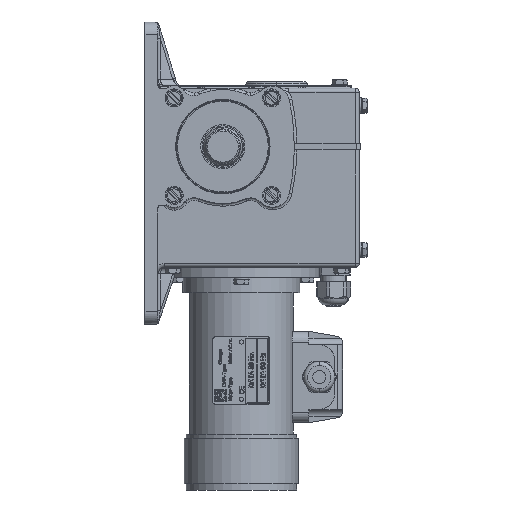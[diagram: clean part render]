
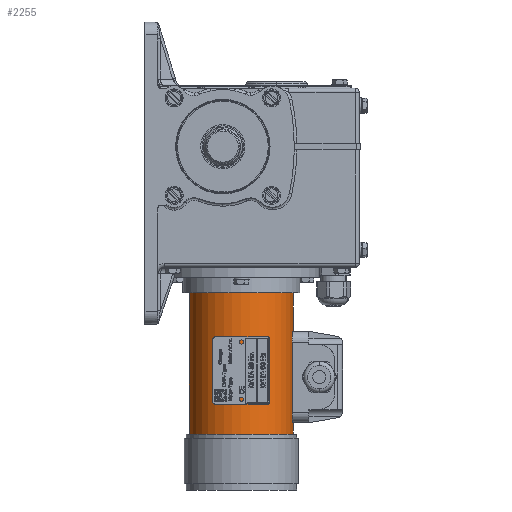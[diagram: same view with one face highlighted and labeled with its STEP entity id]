
A CAD part, left-side view. The second image highlights one B-rep face of the part: STEP entity #2255.
In plain terms, the highlighted cylindrical face has radius 40 mm (diameter 80 mm), a partial arc.
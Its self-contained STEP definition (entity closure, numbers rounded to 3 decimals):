
#788 = AXIS2_PLACEMENT_3D ( 'NONE', #110711, #247290, #130355 ) ;
#2255 = ADVANCED_FACE ( 'NONE', ( #198651 ), #226113, .T. ) ;
#2658 = CARTESIAN_POINT ( 'NONE',  ( 30., -14.292, -75.738 ) ) ;
#5983 = AXIS2_PLACEMENT_3D ( 'NONE', #92186, #229039, #112063 ) ;
#13155 = VERTEX_POINT ( 'NONE', #233737 ) ;
#19466 = EDGE_CURVE ( 'NONE', #87212, #65138, #94775, .T. ) ;
#19538 = CARTESIAN_POINT ( 'NONE',  ( 30., 25.708, -221.5 ) ) ;
#23153 = DIRECTION ( 'NONE',  ( 0., 1., 0. ) ) ;
#33628 = AXIS2_PLACEMENT_3D ( 'NONE', #229313, #112352, #248904 ) ;
#40088 = EDGE_LOOP ( 'NONE', ( #104542, #202366, #126309, #218102, #156820, #60991, #90423, #124872 ) ) ;
#49992 = CARTESIAN_POINT ( 'NONE',  ( 30., -54.292, -112.5 ) ) ;
#52255 = CIRCLE ( 'NONE', #33628, 40. ) ;
#60651 = CARTESIAN_POINT ( 'NONE',  ( 30., 25.708, -112.5 ) ) ;
#60991 = ORIENTED_EDGE ( 'NONE', *, *, #149610, .T. ) ;
#65138 = VERTEX_POINT ( 'NONE', #141072 ) ;
#65688 = EDGE_CURVE ( 'NONE', #13155, #217964, #131774, .T. ) ;
#70478 = DIRECTION ( 'NONE',  ( 0., 0., 1. ) ) ;
#74972 = CARTESIAN_POINT ( 'NONE',  ( 21.112, -53.292, -212.5 ) ) ;
#75946 = LINE ( 'NONE', #199286, #173956 ) ;
#81172 = CIRCLE ( 'NONE', #788, 40. ) ;
#82050 = DIRECTION ( 'NONE',  ( 0., 0., 1. ) ) ;
#84377 = CIRCLE ( 'NONE', #5983, 40. ) ;
#87212 = VERTEX_POINT ( 'NONE', #216439 ) ;
#90423 = ORIENTED_EDGE ( 'NONE', *, *, #159429, .F. ) ;
#91120 = DIRECTION ( 'NONE',  ( 0., 0., 1. ) ) ;
#92186 = CARTESIAN_POINT ( 'NONE',  ( 30., -14.292, -212.5 ) ) ;
#94775 = LINE ( 'NONE', #158041, #198869 ) ;
#99401 = VERTEX_POINT ( 'NONE', #60651 ) ;
#104542 = ORIENTED_EDGE ( 'NONE', *, *, #192027, .T. ) ;
#106178 = DIRECTION ( 'NONE',  ( 0., 0., 1. ) ) ;
#110711 = CARTESIAN_POINT ( 'NONE',  ( 30., -14.292, -221.5 ) ) ;
#112063 = DIRECTION ( 'NONE',  ( 1., 0., 0. ) ) ;
#112352 = DIRECTION ( 'NONE',  ( 0., 0., 1. ) ) ;
#113522 = LINE ( 'NONE', #187077, #211310 ) ;
#115654 = CARTESIAN_POINT ( 'NONE',  ( 21.112, -53.292, -75.738 ) ) ;
#124872 = ORIENTED_EDGE ( 'NONE', *, *, #232650, .F. ) ;
#125994 = CARTESIAN_POINT ( 'NONE',  ( 30., -54.292, -142.5 ) ) ;
#126309 = ORIENTED_EDGE ( 'NONE', *, *, #224478, .T. ) ;
#128355 = AXIS2_PLACEMENT_3D ( 'NONE', #187711, #70478, #207395 ) ;
#128786 = VERTEX_POINT ( 'NONE', #19538 ) ;
#130355 = DIRECTION ( 'NONE',  ( 0., 1., 0. ) ) ;
#131774 = CIRCLE ( 'NONE', #128355, 40. ) ;
#141072 = CARTESIAN_POINT ( 'NONE',  ( 30., -54.292, -212.5 ) ) ;
#148468 = VERTEX_POINT ( 'NONE', #74972 ) ;
#149610 = EDGE_CURVE ( 'NONE', #217964, #234741, #75946, .T. ) ;
#156820 = ORIENTED_EDGE ( 'NONE', *, *, #65688, .T. ) ;
#157651 = AXIS2_PLACEMENT_3D ( 'NONE', #2658, #106178, #23153 ) ;
#158041 = CARTESIAN_POINT ( 'NONE',  ( 30., -54.292, -75.738 ) ) ;
#159429 = EDGE_CURVE ( 'NONE', #99401, #234741, #52255, .T. ) ;
#173956 = VECTOR ( 'NONE', #82050, 1000. ) ;
#187077 = CARTESIAN_POINT ( 'NONE',  ( 30., 25.708, -75.738 ) ) ;
#187711 = CARTESIAN_POINT ( 'NONE',  ( 30., -14.292, -142.5 ) ) ;
#192027 = EDGE_CURVE ( 'NONE', #128786, #87212, #81172, .T. ) ;
#198651 = FACE_OUTER_BOUND ( 'NONE', #40088, .T. ) ;
#198701 = VECTOR ( 'NONE', #91120, 1000. ) ;
#198869 = VECTOR ( 'NONE', #249458, 1000. ) ;
#199286 = CARTESIAN_POINT ( 'NONE',  ( 30., -54.292, -75.738 ) ) ;
#202366 = ORIENTED_EDGE ( 'NONE', *, *, #19466, .T. ) ;
#206774 = DIRECTION ( 'NONE',  ( 0., 0., 1. ) ) ;
#207395 = DIRECTION ( 'NONE',  ( -1., 0., 0. ) ) ;
#211310 = VECTOR ( 'NONE', #206774, 1000. ) ;
#216439 = CARTESIAN_POINT ( 'NONE',  ( 30., -54.292, -221.5 ) ) ;
#217964 = VERTEX_POINT ( 'NONE', #125994 ) ;
#218102 = ORIENTED_EDGE ( 'NONE', *, *, #238671, .T. ) ;
#224478 = EDGE_CURVE ( 'NONE', #65138, #148468, #84377, .T. ) ;
#226113 = CYLINDRICAL_SURFACE ( 'NONE', #157651, 40. ) ;
#229039 = DIRECTION ( 'NONE',  ( 0., 0., -1. ) ) ;
#229313 = CARTESIAN_POINT ( 'NONE',  ( 30., -14.292, -112.5 ) ) ;
#232650 = EDGE_CURVE ( 'NONE', #128786, #99401, #113522, .T. ) ;
#233737 = CARTESIAN_POINT ( 'NONE',  ( 21.112, -53.292, -142.5 ) ) ;
#234741 = VERTEX_POINT ( 'NONE', #49992 ) ;
#238671 = EDGE_CURVE ( 'NONE', #148468, #13155, #250568, .T. ) ;
#247290 = DIRECTION ( 'NONE',  ( 0., 0., 1. ) ) ;
#248904 = DIRECTION ( 'NONE',  ( 0., 1., 0. ) ) ;
#249458 = DIRECTION ( 'NONE',  ( 0., 0., 1. ) ) ;
#250568 = LINE ( 'NONE', #115654, #198701 ) ;
